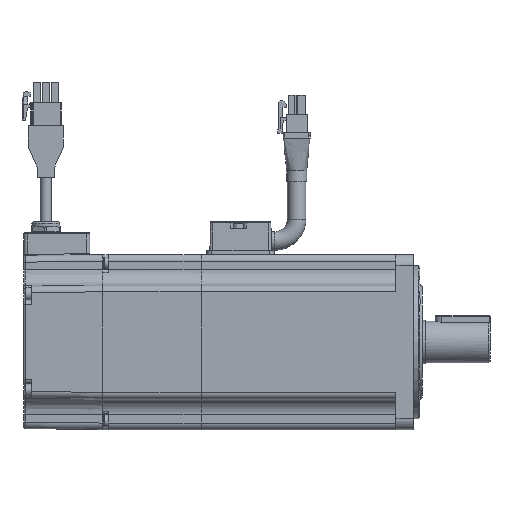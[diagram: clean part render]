
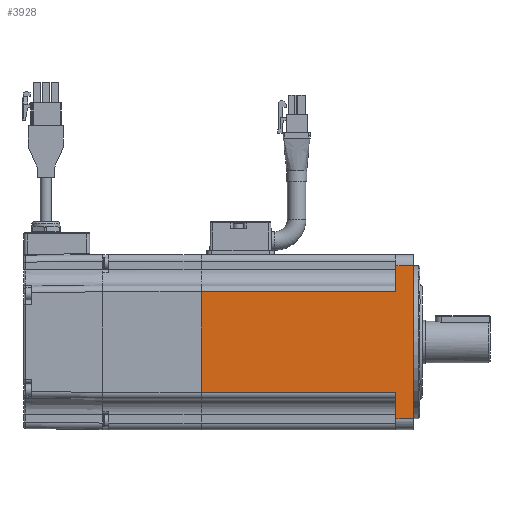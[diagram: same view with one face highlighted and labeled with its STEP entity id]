
A CAD part, left-side view. The second image highlights one B-rep face of the part: STEP entity #3928.
In plain terms, the highlighted planar face has unit normal (-1, 0, 0).
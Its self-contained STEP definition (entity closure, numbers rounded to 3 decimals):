
#3928 = ADVANCED_FACE( '', ( #8807 ), #8808, .T. );
#8807 = FACE_OUTER_BOUND( '', #17464, .T. );
#8808 = PLANE( '', #17465 );
#17464 = EDGE_LOOP( '', ( #30564, #30565, #30566, #30567, #30568, #30569, #30570, #30571 ) );
#17465 = AXIS2_PLACEMENT_3D( '', #30572, #30573, #30574 );
#30564 = ORIENTED_EDGE( '', *, *, #46887, .F. );
#30565 = ORIENTED_EDGE( '', *, *, #46888, .T. );
#30566 = ORIENTED_EDGE( '', *, *, #46499, .F. );
#30567 = ORIENTED_EDGE( '', *, *, #46889, .T. );
#30568 = ORIENTED_EDGE( '', *, *, #46890, .F. );
#30569 = ORIENTED_EDGE( '', *, *, #46891, .T. );
#30570 = ORIENTED_EDGE( '', *, *, #46892, .F. );
#30571 = ORIENTED_EDGE( '', *, *, #45851, .T. );
#30572 = CARTESIAN_POINT( '', ( -40., 197.846, 40. ) );
#30573 = DIRECTION( '', ( -1., 0., 0. ) );
#30574 = DIRECTION( '', ( 0., 0., 1. ) );
#45851 = EDGE_CURVE( '', #53937, #53934, #53938, .T. );
#46499 = EDGE_CURVE( '', #55022, #55024, #55025, .T. );
#46887 = EDGE_CURVE( '', #55687, #53934, #55688, .T. );
#46888 = EDGE_CURVE( '', #55687, #55024, #55689, .F. );
#46889 = EDGE_CURVE( '', #55022, #55690, #55691, .T. );
#46890 = EDGE_CURVE( '', #55692, #55690, #55693, .T. );
#46891 = EDGE_CURVE( '', #55692, #55694, #55695, .F. );
#46892 = EDGE_CURVE( '', #53937, #55694, #55696, .T. );
#53934 = VERTEX_POINT( '', #65601 );
#53937 = VERTEX_POINT( '', #65604 );
#53938 = LINE( '', #65605, #65606 );
#55022 = VERTEX_POINT( '', #67769 );
#55024 = VERTEX_POINT( '', #67771 );
#55025 = LINE( '', #67772, #67773 );
#55687 = VERTEX_POINT( '', #68917 );
#55688 = LINE( '', #68918, #68919 );
#55689 = LINE( '', #68920, #68921 );
#55690 = VERTEX_POINT( '', #68922 );
#55691 = LINE( '', #68923, #68924 );
#55692 = VERTEX_POINT( '', #68925 );
#55693 = LINE( '', #68926, #68927 );
#55694 = VERTEX_POINT( '', #68928 );
#55695 = LINE( '', #68929, #68930 );
#55696 = LINE( '', #68931, #68932 );
#65601 = CARTESIAN_POINT( '', ( -40., 97.81, 23. ) );
#65604 = CARTESIAN_POINT( '', ( -40., 8.81, 23. ) );
#65605 = CARTESIAN_POINT( '', ( -40., 197.846, 23. ) );
#65606 = VECTOR( '', #81671, 1000. );
#67769 = CARTESIAN_POINT( '', ( -40., 8.81, -35. ) );
#67771 = CARTESIAN_POINT( '', ( -40., 8.81, -23. ) );
#67772 = CARTESIAN_POINT( '', ( -40., 8.81, 40. ) );
#67773 = VECTOR( '', #82415, 1000. );
#68917 = CARTESIAN_POINT( '', ( -40., 97.81, -23. ) );
#68918 = CARTESIAN_POINT( '', ( -40., 97.81, 40. ) );
#68919 = VECTOR( '', #82896, 1000. );
#68920 = CARTESIAN_POINT( '', ( -40., 197.846, -23. ) );
#68921 = VECTOR( '', #82897, 1000. );
#68922 = CARTESIAN_POINT( '', ( -40., 0.81, -35. ) );
#68923 = CARTESIAN_POINT( '', ( -40., 197.846, -35. ) );
#68924 = VECTOR( '', #82898, 1000. );
#68925 = CARTESIAN_POINT( '', ( -40., 0.81, 35. ) );
#68926 = CARTESIAN_POINT( '', ( -40., 0.81, 40. ) );
#68927 = VECTOR( '', #82899, 1000. );
#68928 = CARTESIAN_POINT( '', ( -40., 8.81, 35. ) );
#68929 = CARTESIAN_POINT( '', ( -40., 197.846, 35. ) );
#68930 = VECTOR( '', #82900, 1000. );
#68931 = CARTESIAN_POINT( '', ( -40., 8.81, 40. ) );
#68932 = VECTOR( '', #82901, 1000. );
#81671 = DIRECTION( '', ( 0., 1., 0. ) );
#82415 = DIRECTION( '', ( 0., 0., 1. ) );
#82896 = DIRECTION( '', ( 0., 0., 1. ) );
#82897 = DIRECTION( '', ( 0., 1., 0. ) );
#82898 = DIRECTION( '', ( 0., -1., 0. ) );
#82899 = DIRECTION( '', ( 0., 0., -1. ) );
#82900 = DIRECTION( '', ( 0., -1., 0. ) );
#82901 = DIRECTION( '', ( 0., 0., 1. ) );
